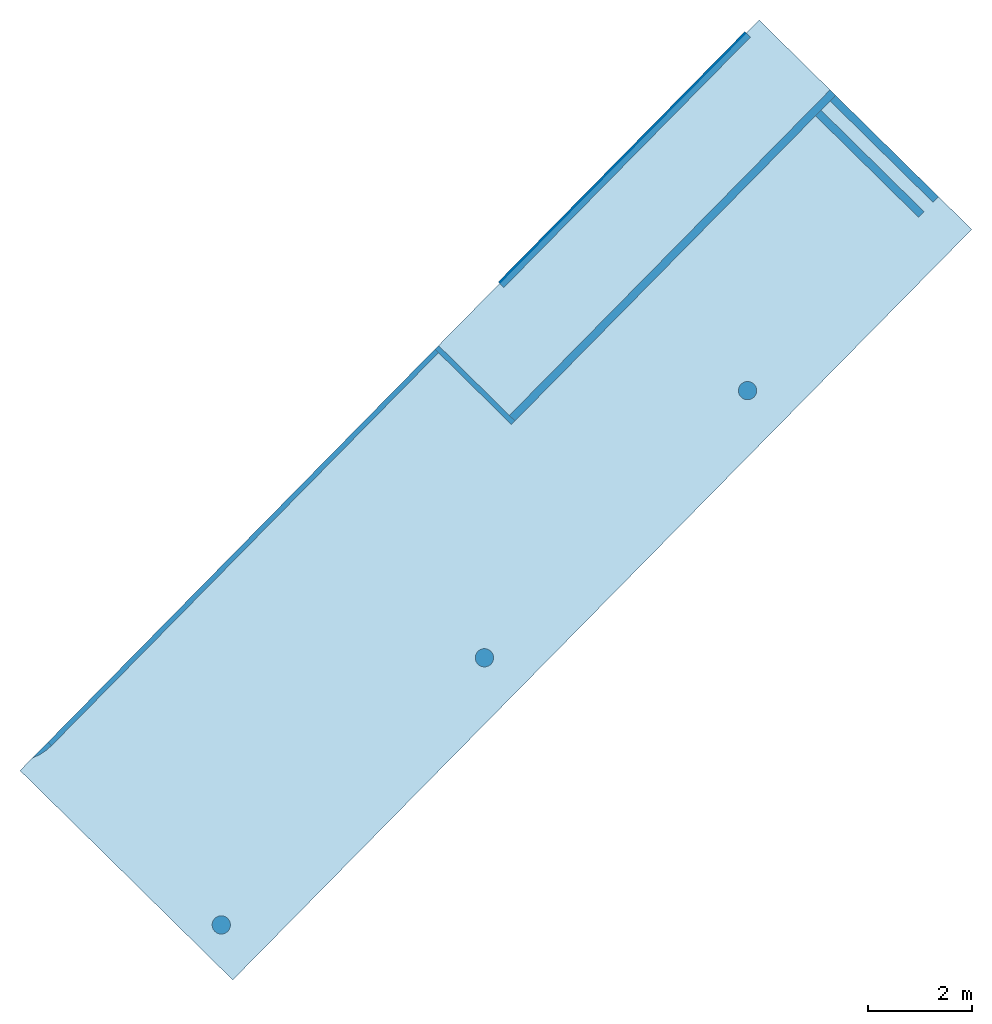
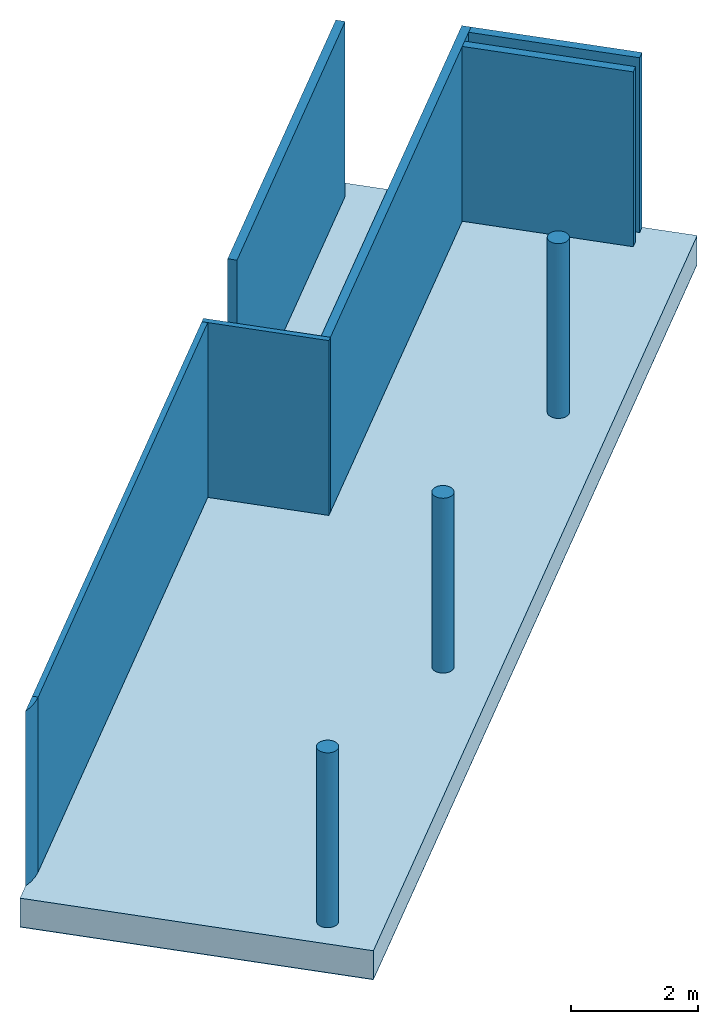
# One storey: 7 walls, 3 columns, 2 slabs.
"""IFC2X3 building model written with IfcOpenShell, lengths in millimetres."""

from ifc_helpers import new_model, entity, si_unit, converted_unit, derived_unit, direction, frame, frame_2d, origin, origin_with_axes, place, context, subcontext, project, spatial, polyline, rectangle, circle, outline, extrude, faceted_brep, source, transform, mapped, material, layer, layer_set, layer_usage, type_object, element, save


model = new_model("IFC2X3")

# Units and contexts
model_context = context("Model", 3, precision=0.01, world=origin(), true_north=direction((6.12323399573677e-17, 1.0)))
plan_context = context("Plan", 3, precision=1e-05, world=origin_with_axes())
body_context = subcontext(model_context, "Body", "Model", "MODEL_VIEW")
ifc_project = project(units=[converted_unit("PLANEANGLEUNIT", "DEGREE", entity("IfcPositiveLengthMeasure", 0.0174532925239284), si_unit("PLANEANGLEUNIT", "RADIAN"), dimensions=[0, 0, 0, 0, 0, 0, 0]), si_unit("AREAUNIT", "SQUARE_METRE"), si_unit("LENGTHUNIT", "METRE", prefix="MILLI"), si_unit("MASSUNIT", "GRAM", prefix="KILO"), si_unit("POWERUNIT", "WATT"), si_unit("PRESSUREUNIT", "PASCAL", prefix="KILO"), si_unit("FORCEUNIT", "NEWTON", prefix="KILO"), si_unit("ELECTRICVOLTAGEUNIT", "VOLT"), si_unit("ELECTRICCURRENTUNIT", "AMPERE"), si_unit("THERMODYNAMICTEMPERATUREUNIT", "DEGREE_CELSIUS"), si_unit("TIMEUNIT", "SECOND"), si_unit("VOLUMEUNIT", "CUBIC_METRE"), derived_unit("LINEARVELOCITYUNIT", [(si_unit("LENGTHUNIT", "METRE"), 1), (si_unit("TIMEUNIT", "SECOND"), -1)]), derived_unit("VOLUMETRICFLOWRATEUNIT", [(si_unit("VOLUMEUNIT", "CUBIC_METRE"), 1), (si_unit("TIMEUNIT", "SECOND"), -1)]), derived_unit("THERMALTRANSMITTANCEUNIT", [(si_unit("POWERUNIT", "WATT"), 1), (si_unit("THERMODYNAMICTEMPERATUREUNIT", "KELVIN"), -1), (si_unit("AREAUNIT", "SQUARE_METRE"), -1)]), derived_unit("SOUNDPRESSUREUNIT", [(si_unit("PRESSUREUNIT", "PASCAL"), 1)])], contexts=[model_context, plan_context])

# Site, building, storey
site_placement = place(None, frame((0.0, -2.21771188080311e-09, 0.0), z_axis=(0.0, 0.0, 1.0), x_axis=(0.266093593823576, -0.963947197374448, 0.0)))
site = spatial("IfcSite", under=ifc_project, at=site_placement, Name="ENZV", CompositionType="ELEMENT")
building_placement = place(site_placement, origin_with_axes())
building = spatial("IfcBuilding", under=site, at=building_placement, Name="ZV001", CompositionType="ELEMENT")
storey_placement = place(building_placement, frame((0.0, 0.0, 9300.0), z_axis=(0.0, 0.0, 1.0), x_axis=(1.0, 0.0, 0.0)))
storey = spatial("IfcBuildingStorey", under=building, at=storey_placement, Name="H02", CompositionType="ELEMENT", Elevation=9300.0)

# Columns
ifc_material_1 = material(Name="Betong Plasstøpt - B35")
column_type = type_object("IfcColumnType", Name="Søyle Betong Sirkulær:350", PredefinedType="COLUMN", material=ifc_material_1)
shared_shape = source(origin(), body_context, "Body", "SweptSolid", [
    extrude(circle(Radius=174.999999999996, at=frame_2d((-9.2955723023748e-15, -3.16979442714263e-13), x_axis=(1.0, 0.0))), frame((0.0, 0.0, 9300.0)), (0.0, 0.0, 1.0), 3350.0),
])
for number, where, z_axis, x_axis, name in (
    (1, (-45996.2221011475, 290685.571904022, -9300.0), (0.0, 0.0, 1.0), (1.0, 0.0, 0.0), "Søyle Betong Sirkulær:350"),
    (2, (-49595.9987498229, 296921.083757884, -9300.0), (0.0, 0.0, 1.0), (1.0, 0.0, 0.0), "Søyle Betong Sirkulær:350"),
    (3, (-53195.9987521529, 303156.466669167, -9300.0), (0.0, 0.0, 1.0), (1.0, 0.0, 0.0), "Søyle Betong Sirkulær:350"),
):
    element("IfcColumn", number, at=place(storey_placement, frame(where, z_axis=z_axis, x_axis=x_axis)), inside=storey, type_object=column_type, material=ifc_material_1, Name=name, ObjectType="Søyle Betong Sirkulær:350", context=body_context, shape_type="MappedRepresentation", body=[
        mapped(shared_shape, transform((0.0, 0.0, 0.0), scale=1.0)),
    ])

# Slabs
ifc_material_2 = material(Name="<Unnamed>")
ifc_layer_1 = layer(ifc_material_2, 550.0)
ifc_layer_set_1 = layer_set([ifc_layer_1], Name="Floor:Standard 550mm")
slab_type_1 = type_object("IfcSlabType", Name="Floor:Standard 550mm", PredefinedType="FLOOR", material=ifc_layer_set_1)
slab_1_placement = place(storey_placement, origin_with_axes())
element("IfcSlab", 4, at=slab_1_placement, inside=storey, type_object=slab_type_1, Name="Floor:Standard 550mm", ObjectType="Floor:Standard 550mm", PredefinedType="FLOOR", context=body_context, shape_type="Brep", body=[
    faceted_brep([(-59997.0066526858, 305262.613111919, 1.13686837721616e-13), (-55034.0847673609, 308129.190337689, 1.13686837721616e-13), (-44918.3740607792, 290615.80133844, 1.13686837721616e-13), (-49881.2959461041, 287749.22411267, 0.0), (-55034.0847673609, 308129.190337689, -550.0), (-59997.0066526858, 305262.613111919, -550.0), (-49881.2959461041, 287749.22411267, -550.0), (-44918.3740607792, 290615.80133844, -550.0)], [[[0, 1, 2, 3]], [[4, 5, 6, 7]], [[3, 2, 7, 6]], [[2, 1, 4, 7]], [[1, 0, 5, 4]], [[0, 3, 6, 5]]], orient=[[False], [False], [False], [False], [False], [False]]),
])
ifc_layer_2 = layer(ifc_material_2, 560.0)
ifc_layer_set_2 = layer_set([ifc_layer_2], Name="Floor:Standard 560mm")
slab_type_2 = type_object("IfcSlabType", Name="Floor:Standard 560mm", PredefinedType="FLOOR", material=ifc_layer_set_2)
slab_2_placement = place(storey_placement, origin_with_axes())
element("IfcSlab", 5, at=slab_2_placement, inside=storey, type_object=slab_type_2, Name="Floor:Standard 560mm", ObjectType="Floor:Standard 560mm", PredefinedType="FLOOR", context=body_context, shape_type="Brep", body=[
    faceted_brep([(-59997.0066526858, 305262.613111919, 1.13686837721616e-13), (-55034.0847673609, 308129.190337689, 1.13686837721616e-13), (-44918.3740607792, 290615.80133844, 1.13686837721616e-13), (-49881.2959461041, 287749.22411267, 0.0), (-55034.0847673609, 308129.190337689, -560.0), (-59997.0066526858, 305262.613111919, -560.0), (-49881.2959461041, 287749.22411267, -560.0), (-44918.3740607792, 290615.80133844, -560.0)], [[[0, 1, 2, 3]], [[4, 5, 6, 7]], [[3, 2, 7, 6]], [[2, 1, 4, 7]], [[1, 0, 5, 4]], [[0, 3, 6, 5]]], orient=[[False], [False], [False], [False], [False], [False]]),
])

# Walls
ifc_material_3 = material(Name="Vegg")
ifc_layer_3 = layer(ifc_material_3, 150.0)
ifc_layer_set_3 = layer_set([ifc_layer_3], Name="Basic Wall:Standard - 150mm")
ifc_layer_usage_1 = layer_usage(ifc_layer_set_3, "AXIS2", "NEGATIVE", 75.0)
wall_type_1 = type_object("IfcWallType", Name="Basic Wall:Standard - 150mm", PredefinedType="STANDARD", material=ifc_layer_set_3)
wall_1_placement = place(storey_placement, frame((-58275.8235299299, 306256.947766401, 0.0), z_axis=(0.0, 0.0, 1.0), x_axis=(0.500001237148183, -0.866024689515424, 0.0)))
element("IfcWallStandardCase", 6, at=wall_1_placement, inside=storey, type_object=wall_type_1, material=ifc_layer_usage_1, Name="Basic Wall:Standard - 150mm", ObjectType="Basic Wall:Standard - 150mm", context=body_context, shape_type="SweptSolid", body=[
    extrude(rectangle(XDim=8773.51155557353, YDim=149.999999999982, at=frame_2d((4386.75577778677, 9.45021838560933e-13), x_axis=(-1.0, 0.0))), origin(), (0.0, 0.0, 1.0), 3350.0),
])
ifc_layer_usage_2 = layer_usage(ifc_layer_set_3, "AXIS2", "NEGATIVE", 75.0)
wall_2_placement = place(storey_placement, frame((-55771.0281264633, 307616.514622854, 0.0), z_axis=(0.0, 0.0, 1.0), x_axis=(-0.866021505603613, -0.500006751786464, 0.0)))
element("IfcWallStandardCase", 7, at=wall_2_placement, inside=storey, type_object=wall_type_1, material=ifc_layer_usage_2, Name="Basic Wall:Standard - 150mm", ObjectType="Basic Wall:Standard - 150mm", context=body_context, shape_type="SweptSolid", body=[
    extrude(rectangle(XDim=2774.00024943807, YDim=150.000000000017, at=frame_2d((1387.00012471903, 3.5527136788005e-14), x_axis=(-1.0, 0.0))), origin(), (0.0, 0.0, 1.0), 3350.0),
])
ifc_layer_usage_3 = layer_usage(ifc_layer_set_3, "AXIS2", "NEGATIVE", 75.0)
wall_3_placement = place(storey_placement, frame((-55571.0296113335, 307270.10360402, 0.0), z_axis=(0.0, 0.0, 1.0), x_axis=(-0.866021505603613, -0.500006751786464, 0.0)))
element("IfcWallStandardCase", 8, at=wall_3_placement, inside=storey, type_object=wall_type_1, material=ifc_layer_usage_3, Name="Basic Wall:Standard - 150mm", ObjectType="Basic Wall:Standard - 150mm", context=body_context, shape_type="SweptSolid", body=[
    extrude(rectangle(XDim=2774.00024943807, YDim=150.000000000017, at=frame_2d((1387.00012471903, 3.5527136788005e-14), x_axis=(-1.0, 0.0))), origin(), (0.0, 0.0, 1.0), 3350.0),
])
ifc_layer_4 = layer(ifc_material_3, 152.0)
ifc_layer_set_4 = layer_set([ifc_layer_4], Name="Basic Wall:Standard - 152mm")
ifc_layer_usage_4 = layer_usage(ifc_layer_set_4, "AXIS2", "NEGATIVE", 76.0)
wall_type_2 = type_object("IfcWallType", Name="Basic Wall:Standard - 152mm", PredefinedType="STANDARD", material=ifc_layer_set_4)
wall_4_placement = place(storey_placement, frame((-56414.9468399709, 299131.835056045, 0.0), z_axis=(0.0, 0.0, 1.0), x_axis=(-0.500001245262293, 0.866024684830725, 0.0)))
element("IfcWallStandardCase", 9, at=wall_4_placement, inside=storey, type_object=wall_type_2, material=ifc_layer_usage_4, Name="Basic Wall:Standard - 152mm", ObjectType="Basic Wall:Standard - 152mm", context=body_context, shape_type="SweptSolid", body=[
    extrude(rectangle(XDim=6751.96753431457, YDim=152.000000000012, at=frame_2d((3375.98376715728, 7.85149723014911e-12), x_axis=(-1.0, 0.0))), origin(), (0.0, 0.0, 1.0), 3350.0),
])
ifc_layer_5 = layer(ifc_material_3, 13.0)
ifc_layer_6 = layer(ifc_material_3, 70.0)
ifc_layer_7 = layer(ifc_material_3, 13.0)
ifc_layer_set_5 = layer_set([ifc_layer_5, ifc_layer_6, ifc_layer_7], Name="Basic Wall:IV Eks-96 mm_70 mm stålstender+1*13 mm gips hver side")
ifc_layer_usage_5 = layer_usage(ifc_layer_set_5, "AXIS2", "NEGATIVE", 48.0)
wall_type_3 = type_object("IfcWallType", Name="Basic Wall:IV Eks-96 mm_70 mm stålstender+1*13 mm gips hver side", PredefinedType="STANDARD", material=ifc_layer_set_5)
wall_5_placement = place(storey_placement, frame((-50223.5019379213, 288437.656377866, 0.0), z_axis=(0.0, 0.0, 1.0), x_axis=(-0.500161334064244, 0.865932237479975, 0.0)))
element("IfcWallStandardCase", 10, at=wall_5_placement, inside=storey, type_object=wall_type_3, material=ifc_layer_usage_5, Name="Basic Wall:IV Eks-96 mm_70 mm stålstender+1*13 mm gips hver side", ObjectType="Basic Wall:IV Eks-96 mm_70 mm stålstender+1*13 mm gips hver side", context=body_context, shape_type="SweptSolid", body=[
    extrude(outline(polyline([(10588.596801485, -48.0), (10588.6145493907, 48.0), (3483.11737114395, 48.0), (3387.11736825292, 48.0), (0.0, 48.0), (0.0, -48.0), (10588.596801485, -48.0)])), origin(), (0.0, 0.0, 1.0), 3350.0),
])
wall_6_placement = place(storey_placement, frame((-53800.1049869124, 298654.801053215, 0.0), z_axis=(0.0, 0.0, 1.0), x_axis=(-0.866024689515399, -0.500001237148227, 0.0)))
element("IfcWall", 11, at=wall_6_placement, inside=storey, type_object=wall_type_3, Name="Basic Wall:IV Eks-96 mm_70 mm stålstender+1*13 mm gips hver side", ObjectType="Basic Wall:IV Eks-96 mm_70 mm stålstender+1*13 mm gips hver side", context=body_context, shape_type="Brep", body=[
    faceted_brep([(2061.11599162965, 48.0000000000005, 0.0), (2061.11599162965, 48.0000000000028, 3350.0), (0.0, 48.0000000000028, 3350.0), (0.0, 48.0000000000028, 0.0), (0.0, -48.0000000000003, 3350.0), (0.0, -48.0000000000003, 0.0), (2061.13373953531, -48.0000000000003, 3350.0), (2061.13373953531, -48.0, 0.0)], [[[0, 1, 2, 3]], [[3, 2, 4, 5]], [[6, 7, 5, 4]], [[7, 0, 3, 5]], [[1, 6, 4, 2]], [[7, 6, 1, 0]]], orient=[[False], [False], [False], [False], [False], [False]]),
])
wall_7_placement = place(storey_placement, frame((-50116.0921469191, 287766.491042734, 0.0), z_axis=(0.0, 0.0, 1.0), x_axis=(0.214787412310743, 0.976660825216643, 0.0)))
element("IfcWall", 12, at=wall_7_placement, inside=storey, type_object=wall_type_3, Name="Basic Wall:IV Eks-96 mm_70 mm stålstender+1*13 mm gips hver side", ObjectType="Basic Wall:IV Eks-96 mm_70 mm stålstender+1*13 mm gips hver side", context=body_context, shape_type="Brep", body=[
    faceted_brep([(600.055611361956, 284.498899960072, 3350.0), (600.055611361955, 284.498899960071, 2.27373675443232e-13), (664.797780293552, 213.631290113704, 0.0), (664.797780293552, 213.631290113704, 3350.0), (284.838958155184, -3.47200601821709, 0.0), (284.838958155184, -3.47200601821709, 3350.0), (287.942732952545, -2.74806874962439, 3350.0), (287.942732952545, -2.74806874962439, 0.0), (423.682591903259, 50.7108597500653, 3350.0), (423.682591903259, 50.7108597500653, 0.0), (550.19867662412, 123.352766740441, 3350.0), (550.19867662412, 123.352766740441, 0.0), (600.047765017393, 284.507488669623, 0.0), (600.047765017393, 284.507488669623, 3350.0)], [[[0, 1, 2, 3]], [[4, 5, 6, 7]], [[7, 6, 8, 9]], [[9, 8, 10, 11]], [[11, 10, 3, 2]], [[1, 4, 7, 9, 11, 2]], [[5, 0, 3, 10, 8, 6]], [[5, 4, 12, 13]]], orient=[[False], [False], [False], [False], [False], [False], [False], [False]]),
])

save(model, "model.ifc")
